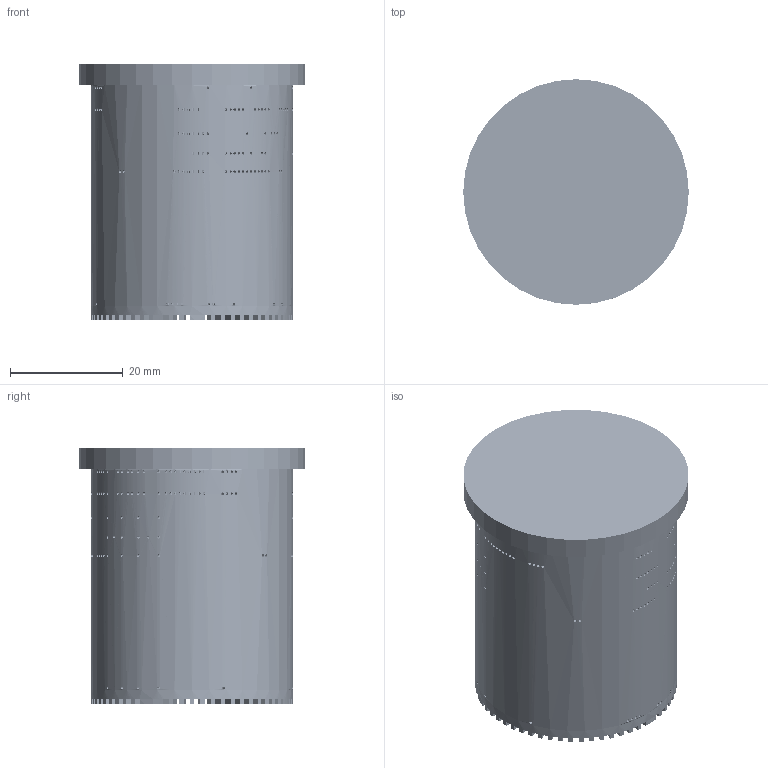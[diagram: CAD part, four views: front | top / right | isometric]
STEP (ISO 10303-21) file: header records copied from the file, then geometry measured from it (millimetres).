
FILE_DESCRIPTION(('Open CASCADE Model'),'2;1');
FILE_NAME('Open CASCADE Shape Model','2026-11-23T10:46:31',('Author'),( 'Open CASCADE'),'Open CASCADE STEP processor 7.8','Open CASCADE 7.8' ,'Unknown');
FILE_SCHEMA(('AUTOMOTIVE_DESIGN { 1 0 10303 214 1 1 1 1 }'));
Length unit declared in the file: millimetre
Products named in the file (16): c207b56a-e722-11f1-a78d-3ea5e9b9197e; aft_end_board; battery_holder; activation_interface; spacer_activation_interface_wakeup_board; wakeup_board; spacer_wakeup_board_power_board; power_board; spacer_power_board_companion_compute; companion_compute; spacer_companion_compute_radar_module; radar_module; core_sleeve; nose_cap; aop_dam; aft_end_cap
Assembly tree (15 placements, depth 2):
  c207b56a-e722-11f1-a78d-3ea5e9b9197e
    aft_end_board
    battery_holder
    activation_interface
    spacer_activation_interface_wakeup_board
    wakeup_board
    spacer_wakeup_board_power_board
    power_board
    spacer_power_board_companion_compute
    companion_compute
    spacer_companion_compute_radar_module
    radar_module
    core_sleeve
    nose_cap
    aop_dam
    aft_end_cap
Bounding box: 40 x 40 x 45.38 mm (x, y, z)
Volume: 22370.2 mm3; surface area: 42283.9 mm2
Topology: 2003 solids, 2003 shells, 25524 faces, 63979 edges, 42255 vertices
Faces by surface type: plane 16704, cylinder 7854, sphere 630, bspline 288, extrusion 32, cone 8, torus 8
Full cylindrical faces by diameter (mm): 0.1 x1, 0.125 x1, 0.188 x2, 0.25 x3, 0.3 x9, 0.375 x1, 0.5 x264, 0.55 x180, 0.625 x4, 0.8 x3, 0.812 x1, 1 x4, 1.25 x1, 1.6 x6, 2.2 x9, 3 x5, 18 x1, 30 x2, 32 x3, 34 x5, 34.2 x1, 35.8 x2, 37.88 x1, 38 x1, 40 x1
Entity records: 1658478 total; most frequent: CARTESIAN_POINT 391398, DIRECTION 240539, VECTOR 151042, LINE 151010, ORIENTED_EDGE 124336, PCURVE 124332, DEFINITIONAL_REPRESENTATION 124332, EDGE_CURVE 62166
